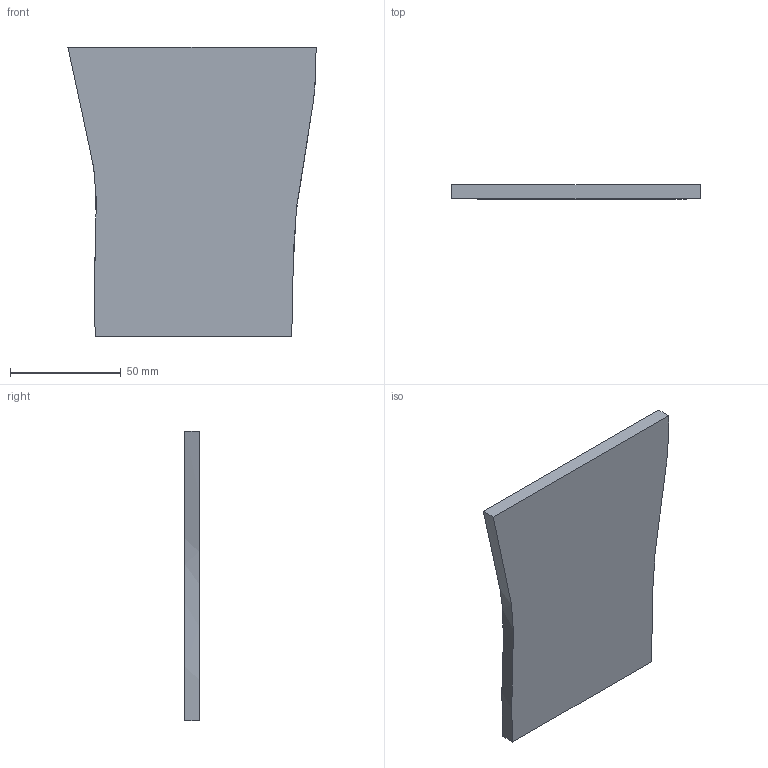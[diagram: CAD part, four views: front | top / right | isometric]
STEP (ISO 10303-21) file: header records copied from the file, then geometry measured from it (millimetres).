
FILE_DESCRIPTION(/* description */ (''),/* implementation_level */ '2;1');
FILE_NAME(/* name */ 'C:\Users\garre\3D Objects\croc skate reinforcement plate.stp',/* time_stamp */ '2021-09-03T20:53:48-04:00',/* author */ ('garre'),/* organization */ (''),/* preprocessor_version */ 'ST-DEVELOPER v18.1',/* originating_system */ 'Autodesk Inventor 2022',/* authorisation */ '');
FILE_SCHEMA (('AUTOMOTIVE_DESIGN { 1 0 10303 214 3 1 1 }'));
Length unit declared in the file: inch
Products named in the file (1): croc skate reinforcement plate
Bounding box: 111.78 x 6.35 x 130.3 mm (x, y, z)
Volume: 79232.5 mm3; surface area: 27894.8 mm2
Topology: 1 solids, 1 shells, 6 faces, 12 edges, 8 vertices
Faces by surface type: plane 4, bspline 2
Entity records: 287 total; most frequent: CARTESIAN_POINT 109, ORIENTED_EDGE 24, DIRECTION 18, EDGE_CURVE 12, POLYLINE 9, LINE 8, VECTOR 8, VERTEX_POINT 8
